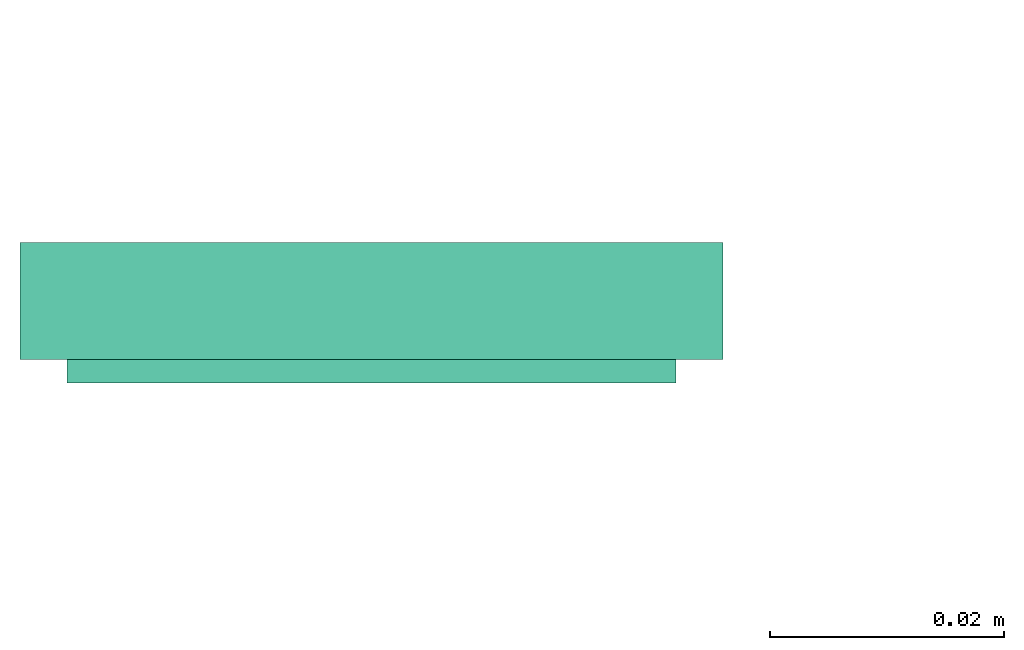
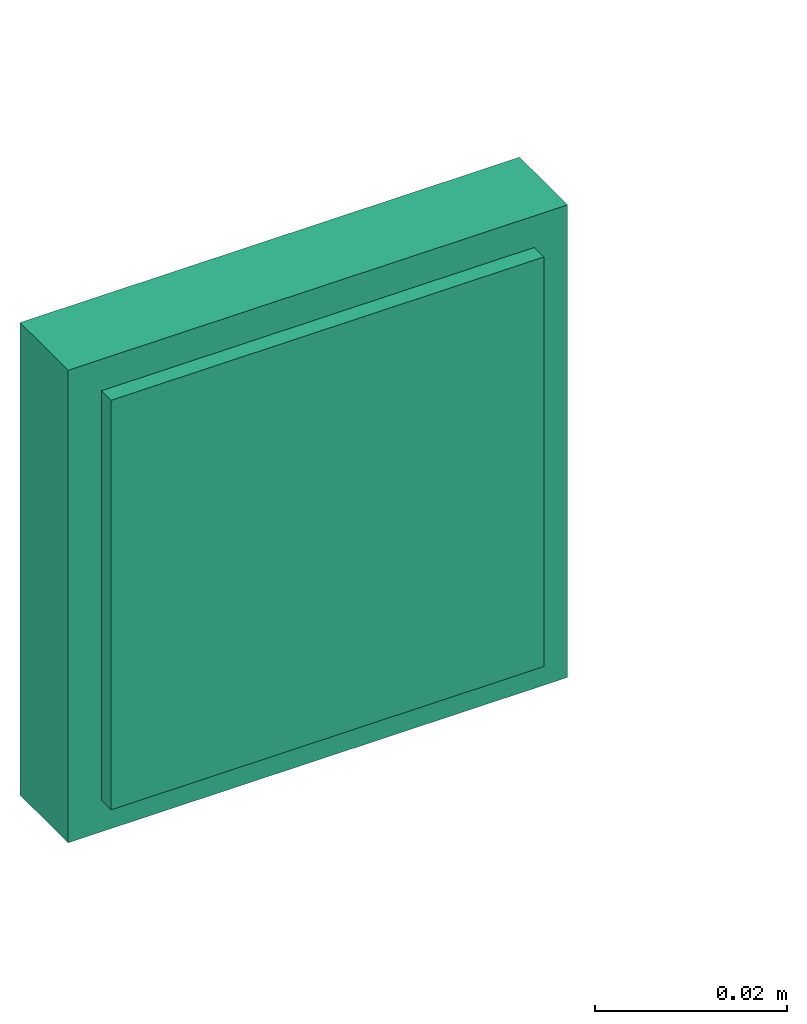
# One storey, part 4 of 5: 1 flow controller.
"""IFC2X3 building model written with IfcOpenShell, lengths in millimetres."""

from ifc_helpers import new_model, entity, si_unit, converted_unit, derived_unit, direction, frame, origin_with_axes, place, context, subcontext, project, spatial, open_shell, surface_model, source, transform, mapped, type_object, element, save


model = new_model("IFC2X3")

# Units and contexts
model_context = context("Model", 3, precision=0.01, world=frame((0.0, 4.29681676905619e-09, 0.0)), true_north=direction((4.01073788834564e-13, 1.0)))
plan_context = context("Plan", 3, precision=0.01, world=frame((0.0, 4.29681676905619e-09, 0.0)), true_north=direction((4.01073788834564e-13, 1.0)))
body_context = subcontext(model_context, "Body", "Model", "MODEL_VIEW")
ifc_project = project(units=[converted_unit("PLANEANGLEUNIT", "DEGREE", entity("IfcPositiveLengthMeasure", 0.0174532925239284), si_unit("PLANEANGLEUNIT", "RADIAN"), dimensions=[0, 0, 0, 0, 0, 0, 0]), si_unit("AREAUNIT", "SQUARE_METRE"), si_unit("LENGTHUNIT", "METRE", prefix="MILLI"), si_unit("MASSUNIT", "GRAM", prefix="KILO"), si_unit("POWERUNIT", "WATT"), si_unit("PRESSUREUNIT", "PASCAL"), si_unit("FORCEUNIT", "NEWTON", prefix="KILO"), si_unit("ELECTRICVOLTAGEUNIT", "VOLT"), si_unit("ELECTRICCURRENTUNIT", "AMPERE"), si_unit("THERMODYNAMICTEMPERATUREUNIT", "DEGREE_CELSIUS"), si_unit("TIMEUNIT", "SECOND"), si_unit("VOLUMEUNIT", "CUBIC_METRE"), derived_unit("LINEARVELOCITYUNIT", [(si_unit("LENGTHUNIT", "METRE"), 1), (si_unit("TIMEUNIT", "SECOND"), -1)]), derived_unit("VOLUMETRICFLOWRATEUNIT", [(si_unit("VOLUMEUNIT", "CUBIC_METRE"), 1), (si_unit("TIMEUNIT", "SECOND"), -1)]), derived_unit("THERMALTRANSMITTANCEUNIT", [(si_unit("POWERUNIT", "WATT"), 1), (si_unit("THERMODYNAMICTEMPERATUREUNIT", "KELVIN"), -1), (si_unit("AREAUNIT", "SQUARE_METRE"), -1)]), derived_unit("SOUNDPRESSUREUNIT", [(si_unit("PRESSUREUNIT", "PASCAL"), 1)])], contexts=[model_context, plan_context])

# Site, building, storey
site_placement = place(None, frame((0.0, -4.29681676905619e-09, 0.0), z_axis=(0.0, 0.0, 1.0), x_axis=(1.0, 0.0, 0.0)))
site = spatial("IfcSite", under=ifc_project, at=site_placement, Name="ENGM", CompositionType="ELEMENT")
building_placement = place(site_placement, frame((0.0, 4.29681676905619e-09, 0.0), z_axis=(0.0, 0.0, 1.0), x_axis=(1.0, 0.0, 0.0)))
building = spatial("IfcBuilding", under=site, at=building_placement, Name="TS", CompositionType="ELEMENT")
storey_placement = place(building_placement, frame((0.0, 0.0, 210900.0), z_axis=(0.0, 0.0, 1.0), x_axis=(1.0, 0.0, 0.0)))
storey = spatial("IfcBuildingStorey", under=building, at=storey_placement, Name="Nivå F", CompositionType="ELEMENT", Elevation=210900.0)

# Flow controller
switching_device_type = type_object("IfcSwitchingDeviceType", Name="Åpneknapp", PredefinedType="NOTDEFINED")
shared_shape = source(origin_with_axes(), body_context, "Body", "SurfaceModel", [
    surface_model("IfcShellBasedSurfaceModel", [(-30.0, 10.0, 30.0), (-30.0, 0.0, 30.0), (30.0, 0.0, 30.0), (30.0, 10.0, 30.0), (30.0, 10.0, -30.0), (30.0, 0.0, -30.0), (-30.0, 0.0, -30.0), (-30.0, 10.0, -30.0), (-26.0, 12.0, 26.0), (-26.0, 10.0, 26.0), (26.0, 12.0, 26.0), (26.0, 10.0, 26.0), (26.0, 12.0, -26.0), (26.0, 10.0, -26.0), (-26.0, 12.0, -26.0), (-26.0, 10.0, -26.0)], [open_shell([[[0, 1, 2]], [[2, 3, 0]], [[4, 5, 6]], [[6, 7, 4]], [[2, 1, 6]], [[6, 5, 2]], [[3, 2, 5]], [[5, 4, 3]], [[0, 3, 4]], [[4, 7, 0]], [[1, 0, 7]], [[7, 6, 1]], [[8, 9, 10]], [[11, 10, 9]], [[12, 13, 14]], [[15, 14, 13]], [[11, 9, 15]], [[15, 13, 11]], [[10, 11, 12]], [[13, 12, 11]], [[8, 10, 12]], [[12, 14, 8]], [[9, 8, 15]], [[14, 15, 8]]])]),
])
flow_controller_placement = place(storey_placement, frame((520912.97569, 455269.1023, 900.0), z_axis=(0.0, 0.0, 1.0), x_axis=(-1.0, 0.0, 0.0)))
element("IfcFlowController", 1, at=flow_controller_placement, inside=storey, type_object=switching_device_type, Name="Åpneknapp", context=body_context, shape_type="MappedRepresentation", body=[
    mapped(shared_shape, transform((0.0, 0.0, 0.0), scale=1.0)),
])

save(model, "model.ifc")
